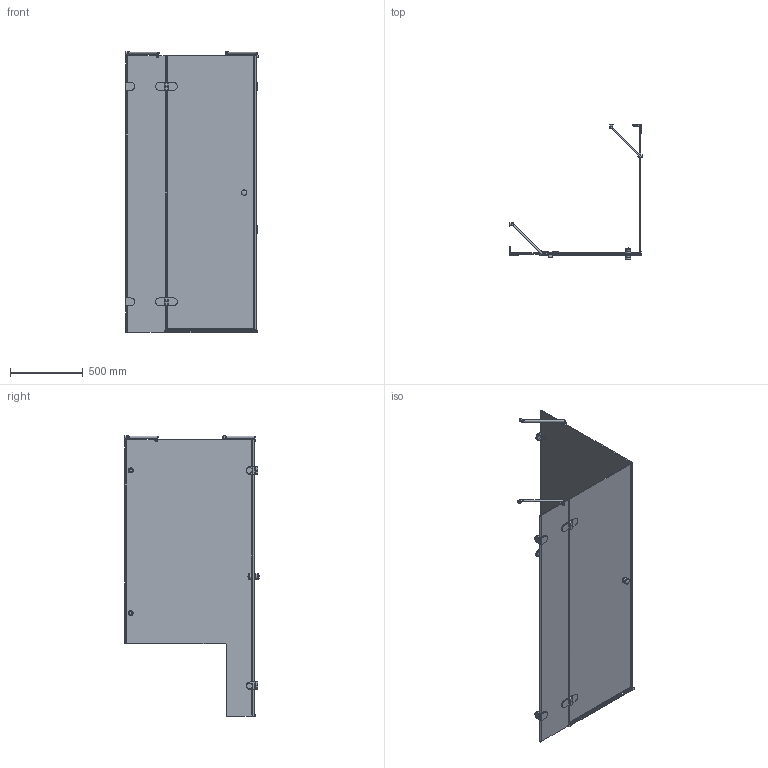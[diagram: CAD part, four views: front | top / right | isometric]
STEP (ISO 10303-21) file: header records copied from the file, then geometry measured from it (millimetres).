
FILE_DESCRIPTION(/* description */ (''),/* implementation_level */ '2;1');
FILE_NAME(/* name */ 'E:\Работа\Сергей\Душевые кабинки\! Работа\LUX SQUARE GK-003V1\LUX SQUARE GK-003V1 левая модель\LUX SQUARE GK-003V1 ЛЕВАЯ-3D.stp',/* time_stamp */ '2017-05-20T13:56:35+03:00',/* author */ ('User'),/* organization */ (''),/* preprocessor_version */ 'ST-DEVELOPER v15.2',/* originating_system */ 'Autodesk Inventor 2014',/* authorisation */ '');
FILE_SCHEMA (('CONFIG_CONTROL_DESIGN'));
Length unit declared in the file: millimetre
Products named in the file (1): LUX SQUARE GK-003V1 ЛЕВАЯ-3D
Bounding box: 913 x 927 x 1931.5 mm (x, y, z)
Volume: 22721310.8 mm3; surface area: 6512608 mm2
Topology: 6 solids, 6 shells, 618 faces, 1677 edges, 1105 vertices
Faces by surface type: plane 395, cylinder 170, torus 23, bspline 14, sphere 12, cone 4
Full cylindrical faces by diameter (mm): 12 x2, 15 x2, 20 x4, 26 x2, 35 x4, 38 x4, 40 x4
Entity records: 20407 total; most frequent: CARTESIAN_POINT 4263, ORIENTED_EDGE 3210, DIRECTION 3176, EDGE_CURVE 1605, LINE 1116, VECTOR 1116, VERTEX_POINT 1077, AXIS2_PLACEMENT_3D 1030
